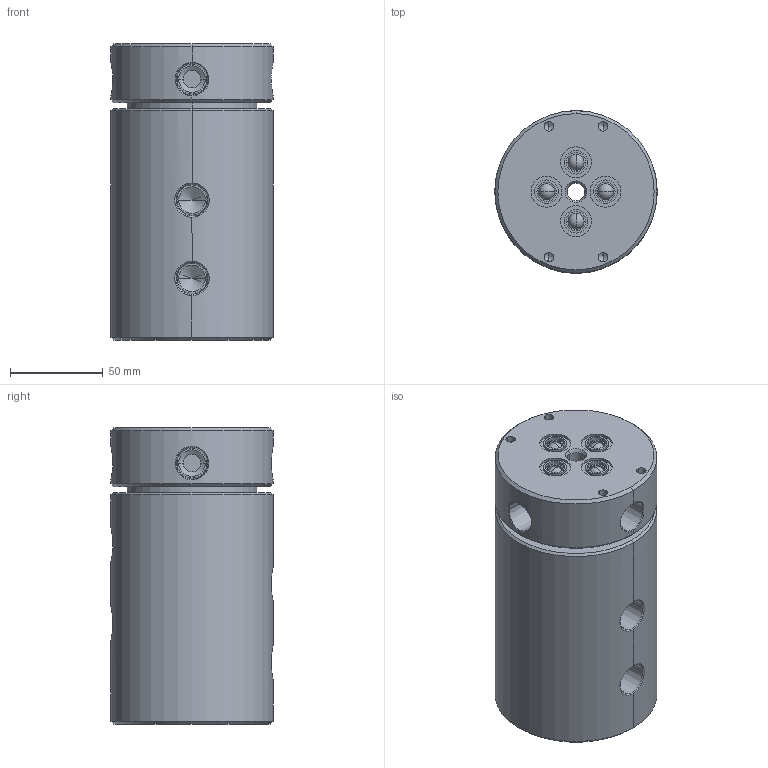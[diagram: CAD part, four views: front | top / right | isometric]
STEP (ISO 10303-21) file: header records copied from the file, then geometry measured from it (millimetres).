
FILE_DESCRIPTION (( 'STEP AP214' ), '1' );
FILE_NAME ('LT(M)-2341.STEP', '2013-01-03T17:20:55', ( '' ), ( '' ), 'SwSTEP 2.0', 'SolidWorks 2011', '' );
FILE_SCHEMA (( 'AUTOMOTIVE_DESIGN' ));
Length unit declared in the file: inch
Products named in the file (1): LT(M)-2341
Bounding box: 87.3 x 87.3 x 159.61 mm (x, y, z)
Volume: 885259.5 mm3; surface area: 79415.5 mm2
Topology: 1 solids, 1 shells, 253 faces, 596 edges, 357 vertices
Faces by surface type: cylinder 114, cone 68, plane 45, bspline 16, sphere 8, torus 2
Entity records: 10482 total; most frequent: CARTESIAN_POINT 3617, DIRECTION 1222, ORIENTED_EDGE 1100, EDGE_CURVE 550, AXIS2_PLACEMENT_3D 510, VERTEX_POINT 349, EDGE_LOOP 305, CIRCLE 272
